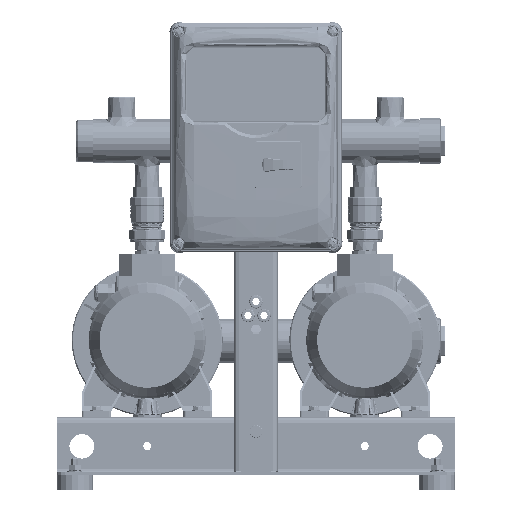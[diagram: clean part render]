
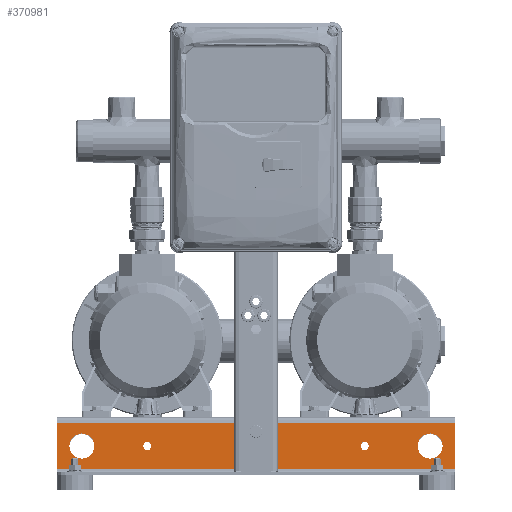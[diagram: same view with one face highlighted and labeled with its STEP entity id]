
A CAD part, top view. The second image highlights one B-rep face of the part: STEP entity #370981.
In plain terms, the highlighted planar face has unit normal (0, 0, 1) as drawn and (0, 0, -1) by its records, which use the part's own axes.
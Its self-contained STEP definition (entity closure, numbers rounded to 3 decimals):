
#364712=DIRECTION('',(1.,0.,0.));
#364713=VECTOR('',#364712,550.);
#364714=CARTESIAN_POINT('',(-275.,-8.,-150.));
#364715=LINE('',#364714,#364713);
#366942=DIRECTION('',(0.,1.,0.));
#366943=VECTOR('',#366942,64.);
#366944=CARTESIAN_POINT('',(-275.,-72.,-150.));
#366945=LINE('',#366944,#366943);
#366963=DIRECTION('',(1.,0.,0.));
#366964=VECTOR('',#366963,550.);
#366965=CARTESIAN_POINT('',(-275.,-72.,-150.));
#366966=LINE('',#366965,#366964);
#366993=DIRECTION('',(0.,1.,0.));
#366994=VECTOR('',#366993,26.);
#366995=CARTESIAN_POINT('',(-26.7,-40.,-150.));
#366996=LINE('',#366995,#366994);
#367000=DIRECTION('',(1.,0.,0.));
#367001=VECTOR('',#367000,3.6);
#367002=CARTESIAN_POINT('',(-30.3,-40.,-150.));
#367003=LINE('',#367002,#367001);
#367007=DIRECTION('',(0.,-1.,0.));
#367008=VECTOR('',#367007,26.);
#367009=CARTESIAN_POINT('',(-30.3,-14.,-150.));
#367010=LINE('',#367009,#367008);
#367014=DIRECTION('',(-1.,0.,0.));
#367015=VECTOR('',#367014,3.6);
#367016=CARTESIAN_POINT('',(-26.7,-14.,-150.));
#367017=LINE('',#367016,#367015);
#367021=DIRECTION('',(0.,1.,0.));
#367022=VECTOR('',#367021,26.);
#367023=CARTESIAN_POINT('',(30.3,-40.,-150.));
#367024=LINE('',#367023,#367022);
#367028=DIRECTION('',(1.,0.,0.));
#367029=VECTOR('',#367028,3.6);
#367030=CARTESIAN_POINT('',(26.7,-40.,-150.));
#367031=LINE('',#367030,#367029);
#367035=DIRECTION('',(0.,-1.,0.));
#367036=VECTOR('',#367035,26.);
#367037=CARTESIAN_POINT('',(26.7,-14.,-150.));
#367038=LINE('',#367037,#367036);
#367042=DIRECTION('',(-1.,0.,0.));
#367043=VECTOR('',#367042,3.6);
#367044=CARTESIAN_POINT('',(30.3,-14.,-150.));
#367045=LINE('',#367044,#367043);
#367049=CARTESIAN_POINT('',(0.,-20.,-150.));
#367050=DIRECTION('',(0.,0.,-1.));
#367051=DIRECTION('',(1.,0.,0.));
#367052=AXIS2_PLACEMENT_3D('',#367049,#367050,#367051);
#367057=CARTESIAN_POINT('',(0.,-20.,-150.));
#367058=DIRECTION('',(0.,0.,-1.));
#367059=DIRECTION('',(-1.,0.,0.));
#367060=AXIS2_PLACEMENT_3D('',#367057,#367058,#367059);
#367065=CARTESIAN_POINT('',(-240.,-40.,-150.));
#367066=DIRECTION('',(0.,0.,1.));
#367067=DIRECTION('',(-1.,0.,0.));
#367068=AXIS2_PLACEMENT_3D('',#367065,#367066,#367067);
#367073=CARTESIAN_POINT('',(-240.,-40.,-150.));
#367074=DIRECTION('',(0.,0.,1.));
#367075=DIRECTION('',(1.,0.,0.));
#367076=AXIS2_PLACEMENT_3D('',#367073,#367074,#367075);
#367081=CARTESIAN_POINT('',(240.,-40.,-150.));
#367082=DIRECTION('',(0.,0.,1.));
#367083=DIRECTION('',(-1.,0.,0.));
#367084=AXIS2_PLACEMENT_3D('',#367081,#367082,#367083);
#367089=CARTESIAN_POINT('',(240.,-40.,-150.));
#367090=DIRECTION('',(0.,0.,1.));
#367091=DIRECTION('',(1.,0.,0.));
#367092=AXIS2_PLACEMENT_3D('',#367089,#367090,#367091);
#367097=CARTESIAN_POINT('',(-150.,-40.,-150.));
#367098=DIRECTION('',(0.,0.,1.));
#367099=DIRECTION('',(1.,0.,0.));
#367100=AXIS2_PLACEMENT_3D('',#367097,#367098,#367099);
#367105=CARTESIAN_POINT('',(-150.,-40.,-150.));
#367106=DIRECTION('',(0.,0.,1.));
#367107=DIRECTION('',(-1.,0.,0.));
#367108=AXIS2_PLACEMENT_3D('',#367105,#367106,#367107);
#367113=CARTESIAN_POINT('',(150.,-40.,-150.));
#367114=DIRECTION('',(0.,0.,-1.));
#367115=DIRECTION('',(-1.,0.,0.));
#367116=AXIS2_PLACEMENT_3D('',#367113,#367114,#367115);
#367121=CARTESIAN_POINT('',(150.,-40.,-150.));
#367122=DIRECTION('',(0.,0.,-1.));
#367123=DIRECTION('',(1.,0.,0.));
#367124=AXIS2_PLACEMENT_3D('',#367121,#367122,#367123);
#367143=DIRECTION('',(0.,1.,0.));
#367144=VECTOR('',#367143,64.);
#367145=CARTESIAN_POINT('',(275.,-72.,-150.));
#367146=LINE('',#367145,#367144);
#368708=CARTESIAN_POINT('',(-275.,-72.,-150.));
#368709=CARTESIAN_POINT('',(-275.,-8.,-150.));
#368710=VERTEX_POINT('',#368708);
#368711=VERTEX_POINT('',#368709);
#368712=CARTESIAN_POINT('',(275.,-72.,-150.));
#368713=CARTESIAN_POINT('',(275.,-8.,-150.));
#368714=VERTEX_POINT('',#368712);
#368715=VERTEX_POINT('',#368713);
#369068=CARTESIAN_POINT('',(-26.7,-40.,-150.));
#369069=CARTESIAN_POINT('',(-26.7,-14.,-150.));
#369070=VERTEX_POINT('',#369068);
#369071=VERTEX_POINT('',#369069);
#369072=CARTESIAN_POINT('',(-30.3,-14.,-150.));
#369073=VERTEX_POINT('',#369072);
#369074=CARTESIAN_POINT('',(-30.3,-40.,-150.));
#369075=VERTEX_POINT('',#369074);
#369076=CARTESIAN_POINT('',(30.3,-40.,-150.));
#369077=CARTESIAN_POINT('',(30.3,-14.,-150.));
#369078=VERTEX_POINT('',#369076);
#369079=VERTEX_POINT('',#369077);
#369080=CARTESIAN_POINT('',(26.7,-14.,-150.));
#369081=VERTEX_POINT('',#369080);
#369082=CARTESIAN_POINT('',(26.7,-40.,-150.));
#369083=VERTEX_POINT('',#369082);
#369100=CARTESIAN_POINT('',(6.25,-20.,-150.));
#369101=CARTESIAN_POINT('',(-6.25,-20.,-150.));
#369102=VERTEX_POINT('',#369100);
#369103=VERTEX_POINT('',#369101);
#369124=CARTESIAN_POINT('',(-257.5,-40.,-150.));
#369125=CARTESIAN_POINT('',(-222.5,-40.,-150.));
#369126=VERTEX_POINT('',#369124);
#369127=VERTEX_POINT('',#369125);
#369128=CARTESIAN_POINT('',(222.5,-40.,-150.));
#369129=CARTESIAN_POINT('',(257.5,-40.,-150.));
#369130=VERTEX_POINT('',#369128);
#369131=VERTEX_POINT('',#369129);
#369224=CARTESIAN_POINT('',(-143.75,-40.,-150.));
#369225=CARTESIAN_POINT('',(-156.25,-40.,-150.));
#369226=VERTEX_POINT('',#369224);
#369227=VERTEX_POINT('',#369225);
#369236=CARTESIAN_POINT('',(143.75,-40.,-150.));
#369238=VERTEX_POINT('',#369236);
#369244=CARTESIAN_POINT('',(156.25,-40.,-150.));
#369246=VERTEX_POINT('',#369244);
#370919=CARTESIAN_POINT('',(-275.,-76.,-150.));
#370920=DIRECTION('',(0.,0.,-1.));
#370921=DIRECTION('',(0.,1.,0.));
#370922=AXIS2_PLACEMENT_3D('',#370919,#370920,#370921);
#370923=PLANE('',#370922);
#370924=ORIENTED_EDGE('',*,*,#370872,.F.);
#370925=ORIENTED_EDGE('',*,*,#370909,.T.);
#370927=ORIENTED_EDGE('',*,*,#370926,.T.);
#370928=ORIENTED_EDGE('',*,*,#369980,.F.);
#370929=EDGE_LOOP('',(#370924,#370925,#370927,#370928));
#370930=FACE_OUTER_BOUND('',#370929,.F.);
#370932=ORIENTED_EDGE('',*,*,#370931,.F.);
#370934=ORIENTED_EDGE('',*,*,#370933,.F.);
#370936=ORIENTED_EDGE('',*,*,#370935,.F.);
#370938=ORIENTED_EDGE('',*,*,#370937,.F.);
#370939=EDGE_LOOP('',(#370932,#370934,#370936,#370938));
#370940=FACE_BOUND('',#370939,.F.);
#370942=ORIENTED_EDGE('',*,*,#370941,.F.);
#370944=ORIENTED_EDGE('',*,*,#370943,.F.);
#370946=ORIENTED_EDGE('',*,*,#370945,.F.);
#370948=ORIENTED_EDGE('',*,*,#370947,.F.);
#370949=EDGE_LOOP('',(#370942,#370944,#370946,#370948));
#370950=FACE_BOUND('',#370949,.F.);
#370952=ORIENTED_EDGE('',*,*,#370951,.T.);
#370954=ORIENTED_EDGE('',*,*,#370953,.T.);
#370955=EDGE_LOOP('',(#370952,#370954));
#370956=FACE_BOUND('',#370955,.F.);
#370958=ORIENTED_EDGE('',*,*,#370957,.F.);
#370960=ORIENTED_EDGE('',*,*,#370959,.F.);
#370961=EDGE_LOOP('',(#370958,#370960));
#370962=FACE_BOUND('',#370961,.F.);
#370964=ORIENTED_EDGE('',*,*,#370963,.F.);
#370966=ORIENTED_EDGE('',*,*,#370965,.F.);
#370967=EDGE_LOOP('',(#370964,#370966));
#370968=FACE_BOUND('',#370967,.F.);
#370970=ORIENTED_EDGE('',*,*,#370969,.F.);
#370972=ORIENTED_EDGE('',*,*,#370971,.F.);
#370973=EDGE_LOOP('',(#370970,#370972));
#370974=FACE_BOUND('',#370973,.F.);
#370976=ORIENTED_EDGE('',*,*,#370975,.T.);
#370978=ORIENTED_EDGE('',*,*,#370977,.T.);
#370979=EDGE_LOOP('',(#370976,#370978));
#370980=FACE_BOUND('',#370979,.F.);
#367053=CIRCLE('',#367052,6.25);
#367061=CIRCLE('',#367060,6.25);
#367069=CIRCLE('',#367068,17.5);
#367077=CIRCLE('',#367076,17.5);
#367085=CIRCLE('',#367084,17.5);
#367093=CIRCLE('',#367092,17.5);
#367101=CIRCLE('',#367100,6.25);
#367109=CIRCLE('',#367108,6.25);
#367117=CIRCLE('',#367116,6.25);
#367125=CIRCLE('',#367124,6.25);
#369980=EDGE_CURVE('',#368711,#368715,#364715,.T.);
#370872=EDGE_CURVE('',#368710,#368711,#366945,.T.);
#370909=EDGE_CURVE('',#368710,#368714,#366966,.T.);
#370926=EDGE_CURVE('',#368714,#368715,#367146,.T.);
#370931=EDGE_CURVE('',#369070,#369071,#366996,.T.);
#370933=EDGE_CURVE('',#369075,#369070,#367003,.T.);
#370935=EDGE_CURVE('',#369073,#369075,#367010,.T.);
#370937=EDGE_CURVE('',#369071,#369073,#367017,.T.);
#370941=EDGE_CURVE('',#369078,#369079,#367024,.T.);
#370943=EDGE_CURVE('',#369083,#369078,#367031,.T.);
#370945=EDGE_CURVE('',#369081,#369083,#367038,.T.);
#370947=EDGE_CURVE('',#369079,#369081,#367045,.T.);
#370951=EDGE_CURVE('',#369102,#369103,#367053,.T.);
#370953=EDGE_CURVE('',#369103,#369102,#367061,.T.);
#370957=EDGE_CURVE('',#369126,#369127,#367069,.T.);
#370959=EDGE_CURVE('',#369127,#369126,#367077,.T.);
#370963=EDGE_CURVE('',#369130,#369131,#367085,.T.);
#370965=EDGE_CURVE('',#369131,#369130,#367093,.T.);
#370969=EDGE_CURVE('',#369226,#369227,#367101,.T.);
#370971=EDGE_CURVE('',#369227,#369226,#367109,.T.);
#370975=EDGE_CURVE('',#369238,#369246,#367117,.T.);
#370977=EDGE_CURVE('',#369246,#369238,#367125,.T.);
#370981=ADVANCED_FACE('',(#370930,#370940,#370950,#370956,#370962,#370968,
#370974,#370980),#370923,.T.);
